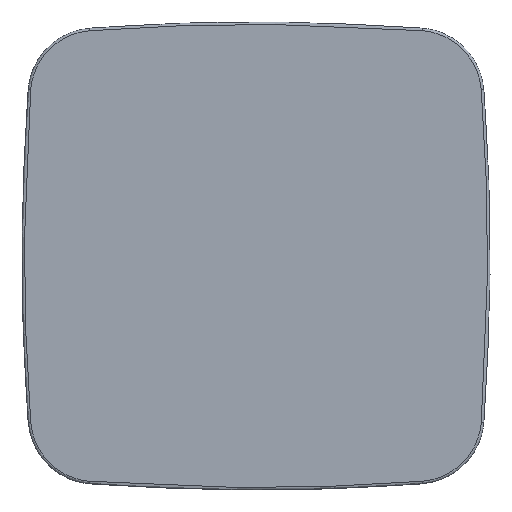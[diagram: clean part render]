
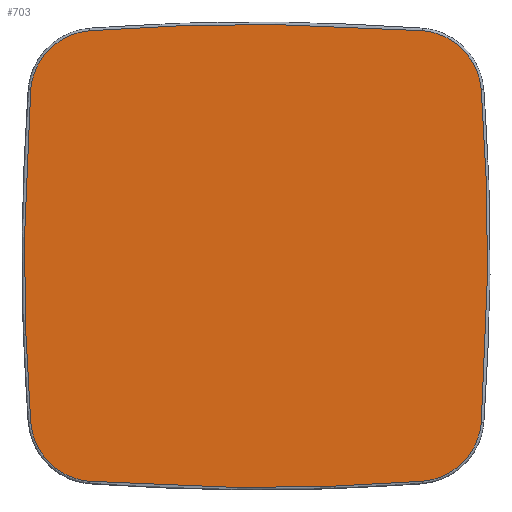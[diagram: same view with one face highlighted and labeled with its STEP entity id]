
A CAD part, top view. The second image highlights one B-rep face of the part: STEP entity #703.
In plain terms, the highlighted planar face has unit normal (0, 0, 1).
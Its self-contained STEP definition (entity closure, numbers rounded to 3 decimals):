
#703=ADVANCED_FACE('',(#909),#3527,.T.);
#909=FACE_OUTER_BOUND('',#1115,.T.);
#1115=EDGE_LOOP('',(#1328,#1329,#1330,#1331,#1332,#1333,#1334,#1335));
#1328=ORIENTED_EDGE('',*,*,#2520,.T.);
#1329=ORIENTED_EDGE('',*,*,#2523,.T.);
#1330=ORIENTED_EDGE('',*,*,#2489,.T.);
#1331=ORIENTED_EDGE('',*,*,#2495,.T.);
#1332=ORIENTED_EDGE('',*,*,#2500,.T.);
#1333=ORIENTED_EDGE('',*,*,#2505,.T.);
#1334=ORIENTED_EDGE('',*,*,#2510,.T.);
#1335=ORIENTED_EDGE('',*,*,#2515,.T.);
#2489=EDGE_CURVE('',#3124,#3125,#3075,.T.);
#2495=EDGE_CURVE('',#3125,#3121,#3081,.T.);
#2500=EDGE_CURVE('',#3121,#3122,#3086,.T.);
#2505=EDGE_CURVE('',#3122,#3123,#3091,.T.);
#2510=EDGE_CURVE('',#3123,#3120,#3096,.T.);
#2515=EDGE_CURVE('',#3120,#3118,#3101,.T.);
#2520=EDGE_CURVE('',#3118,#3119,#3106,.T.);
#2523=EDGE_CURVE('',#3119,#3124,#3109,.T.);
#3075=(
BOUNDED_CURVE()
B_SPLINE_CURVE(2,(#3994,#3995,#3996),.UNSPECIFIED.,.F.,.F.)
B_SPLINE_CURVE_WITH_KNOTS((3,3),(0.,993.608),.UNSPECIFIED.)
CURVE()
GEOMETRIC_REPRESENTATION_ITEM()
RATIONAL_B_SPLINE_CURVE((1.,0.997,1.))
REPRESENTATION_ITEM('')
);
#3081=(
BOUNDED_CURVE()
B_SPLINE_CURVE(2,(#4012,#4013,#4014),.UNSPECIFIED.,.F.,.F.)
B_SPLINE_CURVE_WITH_KNOTS((3,3),(0.,273.436),.UNSPECIFIED.)
CURVE()
GEOMETRIC_REPRESENTATION_ITEM()
RATIONAL_B_SPLINE_CURVE((1.,0.758,1.))
REPRESENTATION_ITEM('')
);
#3086=(
BOUNDED_CURVE()
B_SPLINE_CURVE(2,(#4027,#4028,#4029),.UNSPECIFIED.,.F.,.F.)
B_SPLINE_CURVE_WITH_KNOTS((3,3),(0.,993.608),.UNSPECIFIED.)
CURVE()
GEOMETRIC_REPRESENTATION_ITEM()
RATIONAL_B_SPLINE_CURVE((1.,0.997,1.))
REPRESENTATION_ITEM('')
);
#3091=(
BOUNDED_CURVE()
B_SPLINE_CURVE(2,(#4042,#4043,#4044),.UNSPECIFIED.,.F.,.F.)
B_SPLINE_CURVE_WITH_KNOTS((3,3),(0.,273.436),.UNSPECIFIED.)
CURVE()
GEOMETRIC_REPRESENTATION_ITEM()
RATIONAL_B_SPLINE_CURVE((1.,0.758,1.))
REPRESENTATION_ITEM('')
);
#3096=(
BOUNDED_CURVE()
B_SPLINE_CURVE(2,(#4057,#4058,#4059),.UNSPECIFIED.,.F.,.F.)
B_SPLINE_CURVE_WITH_KNOTS((3,3),(0.,993.608),.UNSPECIFIED.)
CURVE()
GEOMETRIC_REPRESENTATION_ITEM()
RATIONAL_B_SPLINE_CURVE((1.,0.997,1.))
REPRESENTATION_ITEM('')
);
#3101=(
BOUNDED_CURVE()
B_SPLINE_CURVE(2,(#4072,#4073,#4074),.UNSPECIFIED.,.F.,.F.)
B_SPLINE_CURVE_WITH_KNOTS((3,3),(0.,273.436),.UNSPECIFIED.)
CURVE()
GEOMETRIC_REPRESENTATION_ITEM()
RATIONAL_B_SPLINE_CURVE((1.,0.758,1.))
REPRESENTATION_ITEM('')
);
#3106=(
BOUNDED_CURVE()
B_SPLINE_CURVE(2,(#4087,#4088,#4089),.UNSPECIFIED.,.F.,.F.)
B_SPLINE_CURVE_WITH_KNOTS((3,3),(0.,993.608),.UNSPECIFIED.)
CURVE()
GEOMETRIC_REPRESENTATION_ITEM()
RATIONAL_B_SPLINE_CURVE((1.,0.997,1.))
REPRESENTATION_ITEM('')
);
#3109=(
BOUNDED_CURVE()
B_SPLINE_CURVE(2,(#4096,#4097,#4098),.UNSPECIFIED.,.F.,.F.)
B_SPLINE_CURVE_WITH_KNOTS((3,3),(0.,273.436),.UNSPECIFIED.)
CURVE()
GEOMETRIC_REPRESENTATION_ITEM()
RATIONAL_B_SPLINE_CURVE((1.,0.758,1.))
REPRESENTATION_ITEM('')
);
#3118=VERTEX_POINT('',#3963);
#3119=VERTEX_POINT('',#3964);
#3120=VERTEX_POINT('',#3965);
#3121=VERTEX_POINT('',#3966);
#3122=VERTEX_POINT('',#3967);
#3123=VERTEX_POINT('',#3968);
#3124=VERTEX_POINT('',#3969);
#3125=VERTEX_POINT('',#3970);
#3527=PLANE('',#3677);
#3677=AXIS2_PLACEMENT_3D('',#3810,#3743,$);
#3743=DIRECTION('',(0.,0.,1.));
#3810=CARTESIAN_POINT('',(1549.527,-1014.237,750.065));
#3963=CARTESIAN_POINT('',(1928.19,-813.072,750.065));
#3964=CARTESIAN_POINT('',(2920.863,-813.072,750.065));
#3965=CARTESIAN_POINT('',(1750.692,-635.573,750.065));
#3966=CARTESIAN_POINT('',(2920.863,534.598,750.065));
#3967=CARTESIAN_POINT('',(1928.19,534.598,750.065));
#3968=CARTESIAN_POINT('',(1750.692,357.1,750.065));
#3969=CARTESIAN_POINT('',(3098.362,-635.573,750.065));
#3970=CARTESIAN_POINT('',(3098.362,357.1,750.065));
#3994=CARTESIAN_POINT('',(3098.362,-635.573,750.065));
#3995=CARTESIAN_POINT('',(3135.745,-139.237,750.065));
#3996=CARTESIAN_POINT('',(3098.362,357.1,750.065));
#4012=CARTESIAN_POINT('',(3098.362,357.1,750.065));
#4013=CARTESIAN_POINT('',(3085.929,522.166,750.065));
#4014=CARTESIAN_POINT('',(2920.863,534.598,750.065));
#4027=CARTESIAN_POINT('',(2920.863,534.598,750.065));
#4028=CARTESIAN_POINT('',(2424.527,571.981,750.065));
#4029=CARTESIAN_POINT('',(1928.19,534.598,750.065));
#4042=CARTESIAN_POINT('',(1928.19,534.598,750.065));
#4043=CARTESIAN_POINT('',(1763.124,522.166,750.065));
#4044=CARTESIAN_POINT('',(1750.692,357.1,750.065));
#4057=CARTESIAN_POINT('',(1750.692,357.1,750.065));
#4058=CARTESIAN_POINT('',(1713.309,-139.237,750.065));
#4059=CARTESIAN_POINT('',(1750.692,-635.573,750.065));
#4072=CARTESIAN_POINT('',(1750.692,-635.573,750.065));
#4073=CARTESIAN_POINT('',(1763.124,-800.639,750.065));
#4074=CARTESIAN_POINT('',(1928.19,-813.072,750.065));
#4087=CARTESIAN_POINT('',(1928.19,-813.072,750.065));
#4088=CARTESIAN_POINT('',(2424.527,-850.455,750.065));
#4089=CARTESIAN_POINT('',(2920.863,-813.072,750.065));
#4096=CARTESIAN_POINT('',(2920.863,-813.072,750.065));
#4097=CARTESIAN_POINT('',(3085.929,-800.639,750.065));
#4098=CARTESIAN_POINT('',(3098.362,-635.573,750.065));
